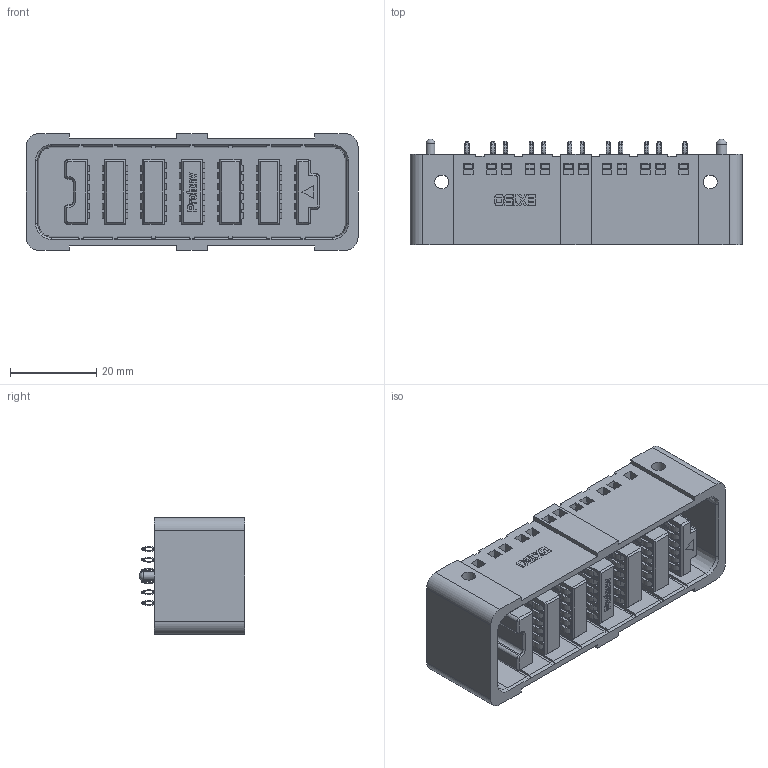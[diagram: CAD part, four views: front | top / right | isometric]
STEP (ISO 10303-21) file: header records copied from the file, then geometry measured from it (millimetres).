
FILE_DESCRIPTION(/* description */ (''),/* implementation_level */ '2;1');
FILE_NAME(/* name */ 'PDC3410F0001-24S石头档.stp',/* time_stamp */ '2024-08-16T11:33:39+08:00',/* author */ (''),/* organization */ (''),/* preprocessor_version */ 'ST-DEVELOPER v16.7',/* originating_system */ 'SIEMENS PLM Software NX 1946',/* authorisation */ '');
FILE_SCHEMA (('AUTOMOTIVE_DESIGN { 1 0 10303 214 3 1 1 1 }'));
Products named in the file (1): _model1
Bounding box: 76.9 x 24.5 x 27 mm (x, y, z)
Volume: 26446.8 mm3; surface area: 22702.1 mm2
Topology: 1 solids, 25 shells, 4908 faces, 13292 edges, 8405 vertices
Faces by surface type: plane 2110, cylinder 1577, torus 576, extrusion 311, bspline 288, cone 44, sphere 2
Full cylindrical faces by diameter (mm): 2 x1, 2.5 x1, 3.2 x2
Entity records: 174777 total; most frequent: CARTESIAN_POINT 52787, ORIENTED_EDGE 26558, DIRECTION 24185, EDGE_CURVE 13279, VERTEX_POINT 8398, AXIS2_PLACEMENT_3D 8163, VECTOR 7859, LINE 7548
